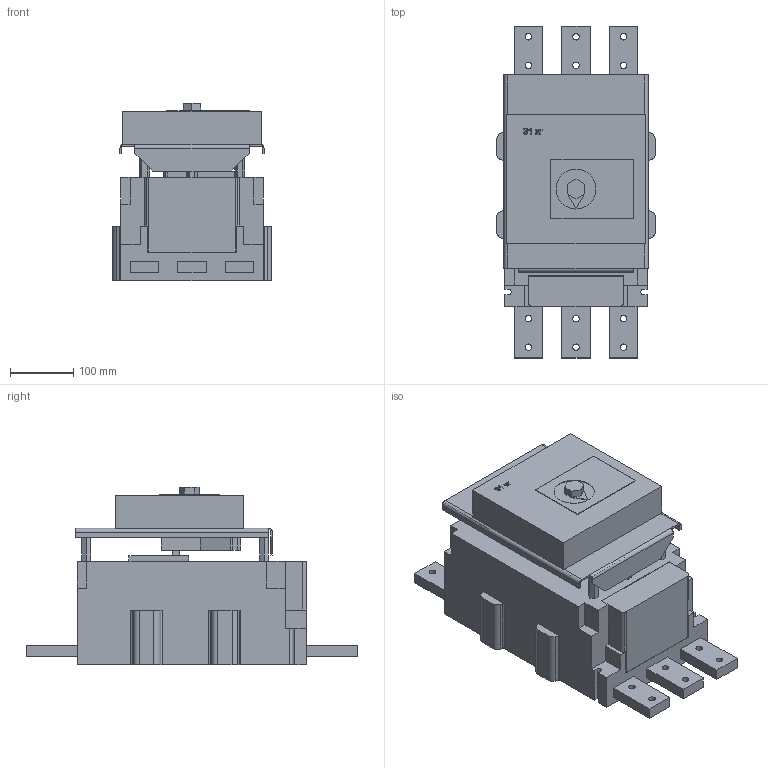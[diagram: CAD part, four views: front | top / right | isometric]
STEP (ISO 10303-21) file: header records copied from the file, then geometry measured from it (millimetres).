
FILE_DESCRIPTION (( 'STEP AP214' ), '1' );
FILE_NAME ('ÂÀ53(55)-41 ñ ÝÌ ïðèâîäîì.STEP', '2023-02-13T08:12:56', ( 'user' ), ( '' ), 'SwSTEP 2.0', 'SolidWorks 2018', '' );
FILE_SCHEMA (( 'AUTOMOTIVE_DESIGN' ));
Length unit declared in the file: millimetre
Products named in the file (1): ÂÀ53(55)-41 ñ ÝÌ ïðèâîäîì
Bounding box: 250 x 523 x 279.15 mm (x, y, z)
Volume: 16697751.8 mm3; surface area: 754038.8 mm2
Topology: 5 solids, 5 shells, 261 faces, 738 edges, 506 vertices
Faces by surface type: plane 202, cylinder 55, bspline 4
Entity records: 8894 total; most frequent: CARTESIAN_POINT 1872, ORIENTED_EDGE 1476, DIRECTION 1331, EDGE_CURVE 738, LINE 595, VECTOR 595, VERTEX_POINT 506, AXIS2_PLACEMENT_3D 368
